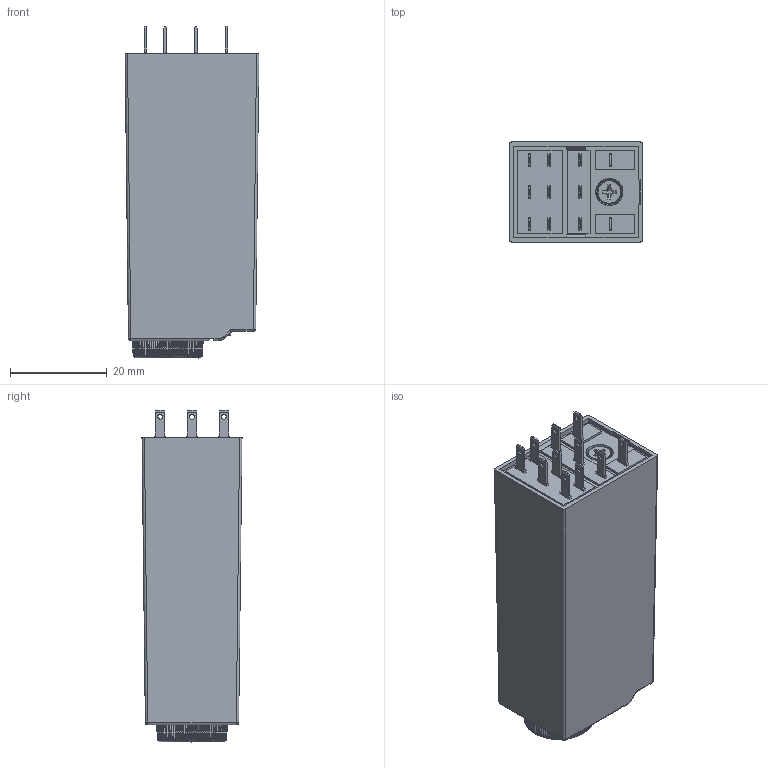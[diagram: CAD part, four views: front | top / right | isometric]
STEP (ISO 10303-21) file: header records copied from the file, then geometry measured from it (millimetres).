
FILE_DESCRIPTION(('STEP AP214'),'2;1');
FILE_NAME('8503.stp','2011-08-01T16:19:46',(''),(''),'2007.1.106','THINKDESIGN','');
FILE_SCHEMA(('AUTOMOTIVE_DESIGN'));
Products named in the file (1): None
Bounding box: 27.7 x 20.7 x 68.7 mm (x, y, z)
Surface area: 12372.3 mm2 (no closed solid volume)
Topology: 0 solids, 0 shells, 648 faces, 3379 edges, 3352 vertices
Faces by surface type: plane 413, bspline 154, cylinder 81
Full cylindrical faces by diameter (mm): 1 x11, 5 x1, 5.1 x1
Entity records: 36933 total; most frequent: CARTESIAN_POINT 14808, COMPOSITE_CURVE_SEGMENT 3376, DIRECTION 3140, TRIMMED_CURVE 2010, VECTOR 1920, LINE 1920, B_SPLINE_CURVE_WITH_KNOTS 944, STYLED_ITEM 649
